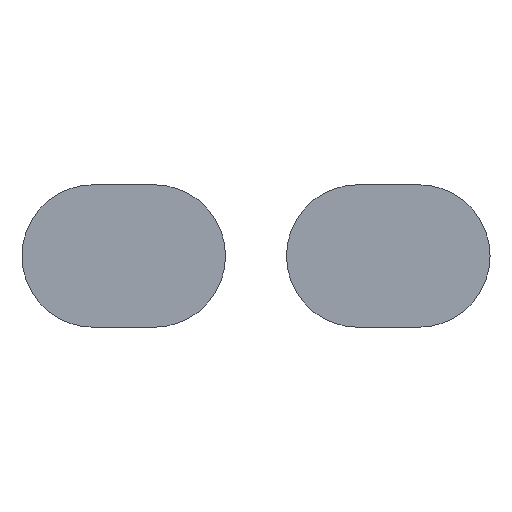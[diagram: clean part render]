
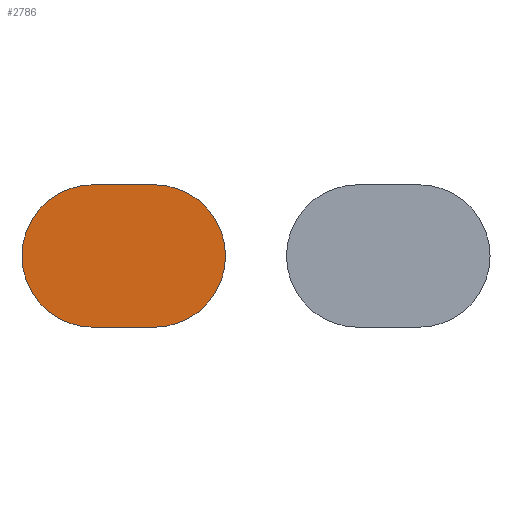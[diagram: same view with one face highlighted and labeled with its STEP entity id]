
A CAD part, left-side view. The second image highlights one B-rep face of the part: STEP entity #2786.
In plain terms, the highlighted planar face has unit normal (-1, 0, 0).
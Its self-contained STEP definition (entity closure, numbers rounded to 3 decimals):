
#1728 = PLANE('',#1729);
#1729 = AXIS2_PLACEMENT_3D('',#1730,#1731,#1732);
#1730 = CARTESIAN_POINT('',(42.,21.01,7.));
#1731 = DIRECTION('',(0.,0.,1.));
#1732 = DIRECTION('',(0.,-1.,0.));
#1866 = CYLINDRICAL_SURFACE('',#1867,6.99);
#1867 = AXIS2_PLACEMENT_3D('',#1868,#1869,#1870);
#1868 = CARTESIAN_POINT('',(42.,14.99,0.01));
#1869 = DIRECTION('',(1.,0.,0.));
#1870 = DIRECTION('',(0.,0.,1.));
#1948 = PLANE('',#1949);
#1949 = AXIS2_PLACEMENT_3D('',#1950,#1951,#1952);
#1950 = CARTESIAN_POINT('',(42.,8.,0.01));
#1951 = DIRECTION('',(0.,-1.,0.));
#1952 = DIRECTION('',(0.,0.,-1.));
#2036 = CYLINDRICAL_SURFACE('',#2037,6.99);
#2037 = AXIS2_PLACEMENT_3D('',#2038,#2039,#2040);
#2038 = CARTESIAN_POINT('',(42.,14.99,-0.01));
#2039 = DIRECTION('',(1.,0.,0.));
#2040 = DIRECTION('',(0.,-1.,0.));
#2118 = PLANE('',#2119);
#2119 = AXIS2_PLACEMENT_3D('',#2120,#2121,#2122);
#2120 = CARTESIAN_POINT('',(42.,14.99,-7.));
#2121 = DIRECTION('',(0.,0.,-1.));
#2122 = DIRECTION('',(0.,1.,0.));
#2206 = CYLINDRICAL_SURFACE('',#2207,6.99);
#2207 = AXIS2_PLACEMENT_3D('',#2208,#2209,#2210);
#2208 = CARTESIAN_POINT('',(42.,21.01,-0.01));
#2209 = DIRECTION('',(1.,0.,0.));
#2210 = DIRECTION('',(0.,0.,-1.));
#2283 = PLANE('',#2284);
#2284 = AXIS2_PLACEMENT_3D('',#2285,#2286,#2287);
#2285 = CARTESIAN_POINT('',(42.,28.,-0.01));
#2286 = DIRECTION('',(0.,1.,0.));
#2287 = DIRECTION('',(0.,-0.,1.));
#2341 = CYLINDRICAL_SURFACE('',#2342,6.99);
#2342 = AXIS2_PLACEMENT_3D('',#2343,#2344,#2345);
#2343 = CARTESIAN_POINT('',(42.,21.01,0.01));
#2344 = DIRECTION('',(1.,0.,0.));
#2345 = DIRECTION('',(-0.,1.,0.));
#2358 = VERTEX_POINT('',#2359);
#2359 = CARTESIAN_POINT('',(42.,8.,-0.01));
#2380 = EDGE_CURVE('',#2358,#2381,#2383,.T.);
#2381 = VERTEX_POINT('',#2382);
#2382 = CARTESIAN_POINT('',(42.,14.99,-7.));
#2383 = SURFACE_CURVE('',#2384,(#2389,#2396),.PCURVE_S1.);
#2384 = CIRCLE('',#2385,6.99);
#2385 = AXIS2_PLACEMENT_3D('',#2386,#2387,#2388);
#2386 = CARTESIAN_POINT('',(42.,14.99,-0.01));
#2387 = DIRECTION('',(1.,0.,0.));
#2388 = DIRECTION('',(0.,-1.,0.));
#2389 = PCURVE('',#2036,#2390);
#2390 = DEFINITIONAL_REPRESENTATION('',(#2391),#2395);
#2391 = LINE('',#2392,#2393);
#2392 = CARTESIAN_POINT('',(0.,0.));
#2393 = VECTOR('',#2394,1.);
#2394 = DIRECTION('',(1.,0.));
#2395 = ( GEOMETRIC_REPRESENTATION_CONTEXT(2) 
PARAMETRIC_REPRESENTATION_CONTEXT() REPRESENTATION_CONTEXT('2D SPACE',''
  ) );
#2396 = PCURVE('',#2397,#2402);
#2397 = PLANE('',#2398);
#2398 = AXIS2_PLACEMENT_3D('',#2399,#2400,#2401);
#2399 = CARTESIAN_POINT('',(42.,18.,0.));
#2400 = DIRECTION('',(1.,0.,0.));
#2401 = DIRECTION('',(0.,0.,-1.));
#2402 = DEFINITIONAL_REPRESENTATION('',(#2403),#2407);
#2403 = CIRCLE('',#2404,6.99);
#2404 = AXIS2_PLACEMENT_2D('',#2405,#2406);
#2405 = CARTESIAN_POINT('',(0.01,-3.01));
#2406 = DIRECTION('',(0.,-1.));
#2407 = ( GEOMETRIC_REPRESENTATION_CONTEXT(2) 
PARAMETRIC_REPRESENTATION_CONTEXT() REPRESENTATION_CONTEXT('2D SPACE',''
  ) );
#2435 = VERTEX_POINT('',#2436);
#2436 = CARTESIAN_POINT('',(42.,8.,0.01));
#2457 = EDGE_CURVE('',#2435,#2358,#2458,.T.);
#2458 = SURFACE_CURVE('',#2459,(#2463,#2470),.PCURVE_S1.);
#2459 = LINE('',#2460,#2461);
#2460 = CARTESIAN_POINT('',(42.,8.,0.01));
#2461 = VECTOR('',#2462,1.);
#2462 = DIRECTION('',(0.,0.,-1.));
#2463 = PCURVE('',#1948,#2464);
#2464 = DEFINITIONAL_REPRESENTATION('',(#2465),#2469);
#2465 = LINE('',#2466,#2467);
#2466 = CARTESIAN_POINT('',(0.,0.));
#2467 = VECTOR('',#2468,1.);
#2468 = DIRECTION('',(1.,0.));
#2469 = ( GEOMETRIC_REPRESENTATION_CONTEXT(2) 
PARAMETRIC_REPRESENTATION_CONTEXT() REPRESENTATION_CONTEXT('2D SPACE',''
  ) );
#2470 = PCURVE('',#2397,#2471);
#2471 = DEFINITIONAL_REPRESENTATION('',(#2472),#2476);
#2472 = LINE('',#2473,#2474);
#2473 = CARTESIAN_POINT('',(-0.01,-10.));
#2474 = VECTOR('',#2475,1.);
#2475 = DIRECTION('',(1.,0.));
#2476 = ( GEOMETRIC_REPRESENTATION_CONTEXT(2) 
PARAMETRIC_REPRESENTATION_CONTEXT() REPRESENTATION_CONTEXT('2D SPACE',''
  ) );
#2484 = VERTEX_POINT('',#2485);
#2485 = CARTESIAN_POINT('',(42.,14.99,7.));
#2506 = EDGE_CURVE('',#2484,#2435,#2507,.T.);
#2507 = SURFACE_CURVE('',#2508,(#2513,#2520),.PCURVE_S1.);
#2508 = CIRCLE('',#2509,6.99);
#2509 = AXIS2_PLACEMENT_3D('',#2510,#2511,#2512);
#2510 = CARTESIAN_POINT('',(42.,14.99,0.01));
#2511 = DIRECTION('',(1.,0.,-0.));
#2512 = DIRECTION('',(0.,0.,1.));
#2513 = PCURVE('',#1866,#2514);
#2514 = DEFINITIONAL_REPRESENTATION('',(#2515),#2519);
#2515 = LINE('',#2516,#2517);
#2516 = CARTESIAN_POINT('',(0.,0.));
#2517 = VECTOR('',#2518,1.);
#2518 = DIRECTION('',(1.,0.));
#2519 = ( GEOMETRIC_REPRESENTATION_CONTEXT(2) 
PARAMETRIC_REPRESENTATION_CONTEXT() REPRESENTATION_CONTEXT('2D SPACE',''
  ) );
#2520 = PCURVE('',#2397,#2521);
#2521 = DEFINITIONAL_REPRESENTATION('',(#2522),#2526);
#2522 = CIRCLE('',#2523,6.99);
#2523 = AXIS2_PLACEMENT_2D('',#2524,#2525);
#2524 = CARTESIAN_POINT('',(-0.01,-3.01));
#2525 = DIRECTION('',(-1.,0.));
#2526 = ( GEOMETRIC_REPRESENTATION_CONTEXT(2) 
PARAMETRIC_REPRESENTATION_CONTEXT() REPRESENTATION_CONTEXT('2D SPACE',''
  ) );
#2534 = VERTEX_POINT('',#2535);
#2535 = CARTESIAN_POINT('',(42.,21.01,7.));
#2556 = EDGE_CURVE('',#2534,#2484,#2557,.T.);
#2557 = SURFACE_CURVE('',#2558,(#2562,#2569),.PCURVE_S1.);
#2558 = LINE('',#2559,#2560);
#2559 = CARTESIAN_POINT('',(42.,21.01,7.));
#2560 = VECTOR('',#2561,1.);
#2561 = DIRECTION('',(0.,-1.,0.));
#2562 = PCURVE('',#1728,#2563);
#2563 = DEFINITIONAL_REPRESENTATION('',(#2564),#2568);
#2564 = LINE('',#2565,#2566);
#2565 = CARTESIAN_POINT('',(0.,0.));
#2566 = VECTOR('',#2567,1.);
#2567 = DIRECTION('',(1.,0.));
#2568 = ( GEOMETRIC_REPRESENTATION_CONTEXT(2) 
PARAMETRIC_REPRESENTATION_CONTEXT() REPRESENTATION_CONTEXT('2D SPACE',''
  ) );
#2569 = PCURVE('',#2397,#2570);
#2570 = DEFINITIONAL_REPRESENTATION('',(#2571),#2575);
#2571 = LINE('',#2572,#2573);
#2572 = CARTESIAN_POINT('',(-7.,3.01));
#2573 = VECTOR('',#2574,1.);
#2574 = DIRECTION('',(0.,-1.));
#2575 = ( GEOMETRIC_REPRESENTATION_CONTEXT(2) 
PARAMETRIC_REPRESENTATION_CONTEXT() REPRESENTATION_CONTEXT('2D SPACE',''
  ) );
#2616 = VERTEX_POINT('',#2617);
#2617 = CARTESIAN_POINT('',(42.,28.,0.01));
#2638 = EDGE_CURVE('',#2616,#2534,#2639,.T.);
#2639 = SURFACE_CURVE('',#2640,(#2645,#2652),.PCURVE_S1.);
#2640 = CIRCLE('',#2641,6.99);
#2641 = AXIS2_PLACEMENT_3D('',#2642,#2643,#2644);
#2642 = CARTESIAN_POINT('',(42.,21.01,0.01));
#2643 = DIRECTION('',(1.,0.,0.));
#2644 = DIRECTION('',(-0.,1.,0.));
#2645 = PCURVE('',#2341,#2646);
#2646 = DEFINITIONAL_REPRESENTATION('',(#2647),#2651);
#2647 = LINE('',#2648,#2649);
#2648 = CARTESIAN_POINT('',(0.,0.));
#2649 = VECTOR('',#2650,1.);
#2650 = DIRECTION('',(1.,0.));
#2651 = ( GEOMETRIC_REPRESENTATION_CONTEXT(2) 
PARAMETRIC_REPRESENTATION_CONTEXT() REPRESENTATION_CONTEXT('2D SPACE',''
  ) );
#2652 = PCURVE('',#2397,#2653);
#2653 = DEFINITIONAL_REPRESENTATION('',(#2654),#2658);
#2654 = CIRCLE('',#2655,6.99);
#2655 = AXIS2_PLACEMENT_2D('',#2656,#2657);
#2656 = CARTESIAN_POINT('',(-0.01,3.01));
#2657 = DIRECTION('',(0.,1.));
#2658 = ( GEOMETRIC_REPRESENTATION_CONTEXT(2) 
PARAMETRIC_REPRESENTATION_CONTEXT() REPRESENTATION_CONTEXT('2D SPACE',''
  ) );
#2666 = VERTEX_POINT('',#2667);
#2667 = CARTESIAN_POINT('',(42.,28.,-0.01));
#2688 = EDGE_CURVE('',#2666,#2616,#2689,.T.);
#2689 = SURFACE_CURVE('',#2690,(#2694,#2701),.PCURVE_S1.);
#2690 = LINE('',#2691,#2692);
#2691 = CARTESIAN_POINT('',(42.,28.,-0.01));
#2692 = VECTOR('',#2693,1.);
#2693 = DIRECTION('',(0.,0.,1.));
#2694 = PCURVE('',#2283,#2695);
#2695 = DEFINITIONAL_REPRESENTATION('',(#2696),#2700);
#2696 = LINE('',#2697,#2698);
#2697 = CARTESIAN_POINT('',(0.,0.));
#2698 = VECTOR('',#2699,1.);
#2699 = DIRECTION('',(1.,0.));
#2700 = ( GEOMETRIC_REPRESENTATION_CONTEXT(2) 
PARAMETRIC_REPRESENTATION_CONTEXT() REPRESENTATION_CONTEXT('2D SPACE',''
  ) );
#2701 = PCURVE('',#2397,#2702);
#2702 = DEFINITIONAL_REPRESENTATION('',(#2703),#2707);
#2703 = LINE('',#2704,#2705);
#2704 = CARTESIAN_POINT('',(0.01,10.));
#2705 = VECTOR('',#2706,1.);
#2706 = DIRECTION('',(-1.,0.));
#2707 = ( GEOMETRIC_REPRESENTATION_CONTEXT(2) 
PARAMETRIC_REPRESENTATION_CONTEXT() REPRESENTATION_CONTEXT('2D SPACE',''
  ) );
#2715 = VERTEX_POINT('',#2716);
#2716 = CARTESIAN_POINT('',(42.,21.01,-7.));
#2737 = EDGE_CURVE('',#2715,#2666,#2738,.T.);
#2738 = SURFACE_CURVE('',#2739,(#2744,#2751),.PCURVE_S1.);
#2739 = CIRCLE('',#2740,6.99);
#2740 = AXIS2_PLACEMENT_3D('',#2741,#2742,#2743);
#2741 = CARTESIAN_POINT('',(42.,21.01,-0.01));
#2742 = DIRECTION('',(1.,0.,0.));
#2743 = DIRECTION('',(0.,0.,-1.));
#2744 = PCURVE('',#2206,#2745);
#2745 = DEFINITIONAL_REPRESENTATION('',(#2746),#2750);
#2746 = LINE('',#2747,#2748);
#2747 = CARTESIAN_POINT('',(0.,0.));
#2748 = VECTOR('',#2749,1.);
#2749 = DIRECTION('',(1.,0.));
#2750 = ( GEOMETRIC_REPRESENTATION_CONTEXT(2) 
PARAMETRIC_REPRESENTATION_CONTEXT() REPRESENTATION_CONTEXT('2D SPACE',''
  ) );
#2751 = PCURVE('',#2397,#2752);
#2752 = DEFINITIONAL_REPRESENTATION('',(#2753),#2757);
#2753 = CIRCLE('',#2754,6.99);
#2754 = AXIS2_PLACEMENT_2D('',#2755,#2756);
#2755 = CARTESIAN_POINT('',(0.01,3.01));
#2756 = DIRECTION('',(1.,0.));
#2757 = ( GEOMETRIC_REPRESENTATION_CONTEXT(2) 
PARAMETRIC_REPRESENTATION_CONTEXT() REPRESENTATION_CONTEXT('2D SPACE',''
  ) );
#2765 = EDGE_CURVE('',#2381,#2715,#2766,.T.);
#2766 = SURFACE_CURVE('',#2767,(#2771,#2778),.PCURVE_S1.);
#2767 = LINE('',#2768,#2769);
#2768 = CARTESIAN_POINT('',(42.,14.99,-7.));
#2769 = VECTOR('',#2770,1.);
#2770 = DIRECTION('',(0.,1.,0.));
#2771 = PCURVE('',#2118,#2772);
#2772 = DEFINITIONAL_REPRESENTATION('',(#2773),#2777);
#2773 = LINE('',#2774,#2775);
#2774 = CARTESIAN_POINT('',(0.,0.));
#2775 = VECTOR('',#2776,1.);
#2776 = DIRECTION('',(1.,0.));
#2777 = ( GEOMETRIC_REPRESENTATION_CONTEXT(2) 
PARAMETRIC_REPRESENTATION_CONTEXT() REPRESENTATION_CONTEXT('2D SPACE',''
  ) );
#2778 = PCURVE('',#2397,#2779);
#2779 = DEFINITIONAL_REPRESENTATION('',(#2780),#2784);
#2780 = LINE('',#2781,#2782);
#2781 = CARTESIAN_POINT('',(7.,-3.01));
#2782 = VECTOR('',#2783,1.);
#2783 = DIRECTION('',(0.,1.));
#2784 = ( GEOMETRIC_REPRESENTATION_CONTEXT(2) 
PARAMETRIC_REPRESENTATION_CONTEXT() REPRESENTATION_CONTEXT('2D SPACE',''
  ) );
#2786 = ADVANCED_FACE('',(#2787),#2397,.F.);
#2787 = FACE_BOUND('',#2788,.T.);
#2788 = EDGE_LOOP('',(#2789,#2790,#2791,#2792,#2793,#2794,#2795,#2796));
#2789 = ORIENTED_EDGE('',*,*,#2506,.F.);
#2790 = ORIENTED_EDGE('',*,*,#2556,.F.);
#2791 = ORIENTED_EDGE('',*,*,#2638,.F.);
#2792 = ORIENTED_EDGE('',*,*,#2688,.F.);
#2793 = ORIENTED_EDGE('',*,*,#2737,.F.);
#2794 = ORIENTED_EDGE('',*,*,#2765,.F.);
#2795 = ORIENTED_EDGE('',*,*,#2380,.F.);
#2796 = ORIENTED_EDGE('',*,*,#2457,.F.);
